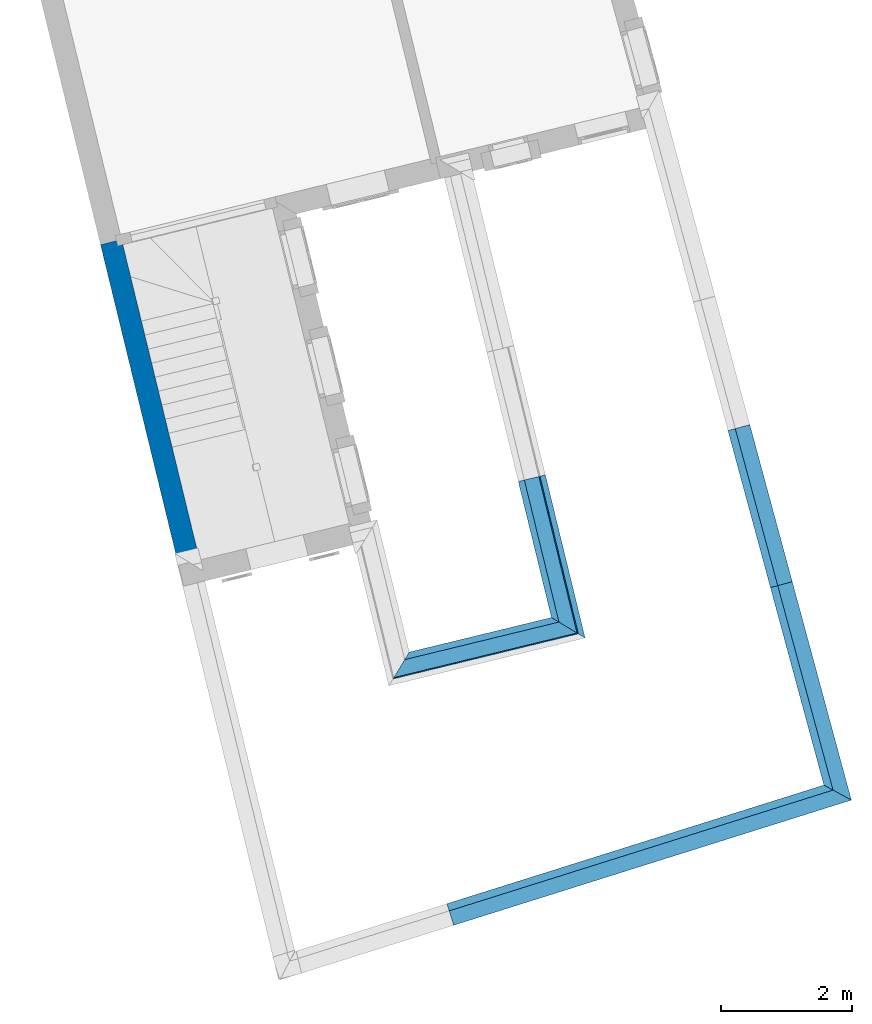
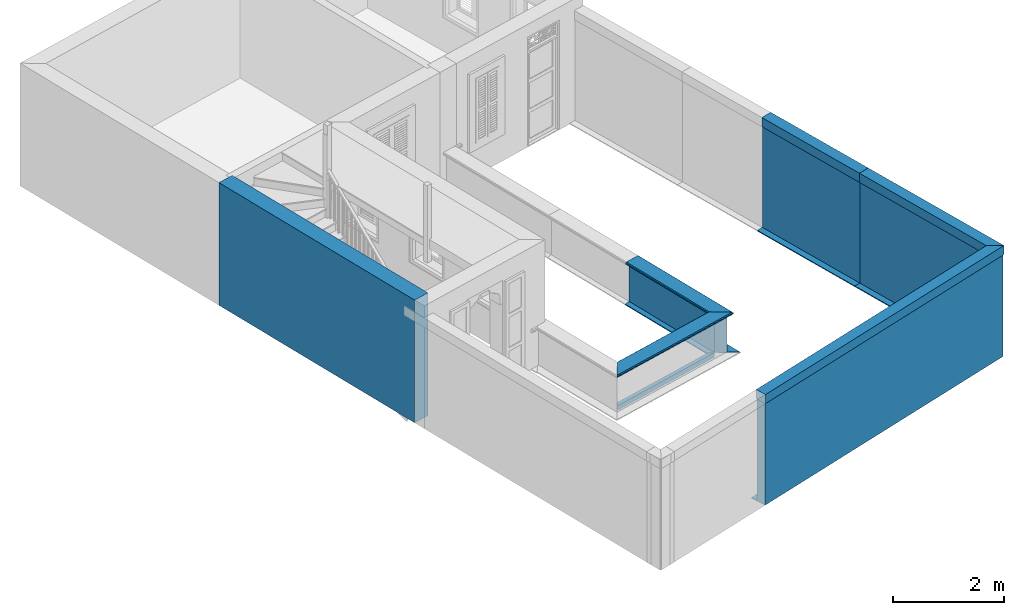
# One storey, part 2 of 9: 12 walls.
"""IFC4 building model written with IfcOpenShell, lengths in metres."""

from ifc_helpers import new_model, si_unit, frame, origin_with_axes, place, context, subcontext, project, spatial, polyline, outline, extrude, clip, halfspace, material, layer, layer_set, layer_usage, material_profile, profile_set, profile_usage, type_object, element, save


model = new_model("IFC4")

# Units and contexts
model_context = context("Model", 3, world=origin_with_axes())
body_context = subcontext(model_context, "Body", "Model", "MODEL_VIEW")
ifc_project = project(units=[si_unit("PLANEANGLEUNIT", "RADIAN"), si_unit("MASSUNIT", "GRAM", prefix="KILO"), si_unit("FORCEUNIT", "NEWTON", prefix="KILO"), si_unit("LENGTHUNIT", "METRE"), si_unit("AREAUNIT", "SQUARE_METRE"), si_unit("VOLUMEUNIT", "CUBIC_METRE")], contexts=[model_context, model_context])

# Site, building, storey
site_placement = place(None, origin_with_axes())
site = spatial("IfcSite", under=ifc_project, at=site_placement, Name="Site plot-4", CompositionType="ELEMENT")
building_placement = place(None, origin_with_axes())
building = spatial("IfcBuilding", under=site, at=building_placement, Name="Building plot-4", CompositionType="ELEMENT")
storey_placement = place(None, frame((0.0, 0.0, 2.7), z_axis=(0.0, 0.0, 1.0), x_axis=(1.0, 0.0, 0.0)))
storey = spatial("IfcBuildingStorey", under=building, at=storey_placement, Name="plot-4 1", CompositionType="ELEMENT", Elevation=2.7)

# Walls
ifc_material = material(Name="Masonry")
ifc_layer = layer(ifc_material, 0.33, ventilated=False)
ifc_layer_set = layer_set([ifc_layer], Name="party_0.08_0.25")
ifc_layer_usage = layer_usage(ifc_layer_set, "AXIS2", "POSITIVE", -0.25)
wall_type_1 = type_object("IfcWallType", Name="party_0.08_0.25", PredefinedType="SOLIDWALL", material=ifc_layer_set)
wall_1_placement = place(storey_placement, frame((18.5257119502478, 14.4311886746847, 0.0), z_axis=(0.0, 0.0, 1.0), x_axis=(0.236608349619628, -0.971605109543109, 0.0)))
element("IfcWall", 1, at=wall_1_placement, inside=storey, type_object=wall_type_1, material=ifc_layer_usage, Name="party", context=body_context, shape_type="SweptSolid", body=[
    extrude(outline(polyline([(4.04257239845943e-17, 0.0799999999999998), (2.17452179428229e-15, -0.25), (5.10976284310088, -0.249999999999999), (5.10976284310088, 0.0799999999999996), (4.04257239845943e-17, 0.0799999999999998)])), origin_with_axes(), (0.0, 0.0, 1.0), 2.7),
])
ifc_material_profile_1 = material_profile(None, outline(polyline([(0.25, 0.0), (0.25, 2.245), (0.05, 2.245), (0.05, 0.02), (-0.08, 0.02), (-0.08, 0.0), (0.25, 0.0)])))
ifc_profile_set_1 = profile_set([ifc_material_profile_1])
ifc_profile_usage_1 = profile_usage(ifc_profile_set_1)
wall_type_2 = type_object("IfcWallType", Name="parapet street_0", PredefinedType="PARAPET", material=ifc_profile_set_1)
wall_2_placement = place(storey_placement, frame((30.3656384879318, 6.37748351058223, 0.0), z_axis=(-0.953879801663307, -0.300188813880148, 0.0), x_axis=(0.300188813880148, -0.953879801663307, 0.0)))
element("IfcWall", 2, at=wall_2_placement, inside=storey, type_object=wall_type_2, material=ifc_profile_usage_1, Name="parapet street_0", context=body_context, shape_type="Clipping", body=[
    clip(clip(extrude(outline(polyline([(0.25, 0.0), (0.25, 2.245), (0.05, 2.245), (0.05, 0.02), (-0.08, 0.02), (-0.08, 0.0), (0.25, 0.0)])), origin_with_axes(), (0.0, 0.0, 1.0), 8.10361476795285), halfspace(frame((0.0, 0.0, 7.10361476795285), z_axis=(7.4882842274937e-15, 0.0, -1.0), x_axis=(0.0, 1.0, 0.0)), True)), halfspace(frame((0.0, 0.0, 1.0), z_axis=(-0.692587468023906, 0.0, -0.721333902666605), x_axis=(0.0, 1.0, 0.0)), False)),
])
ifc_profile_usage_2 = profile_usage(ifc_profile_set_1)
wall_3_placement = place(storey_placement, frame((28.315672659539, 10.1284623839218, 0.0), z_axis=(0.261170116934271, -0.965292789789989, 0.0), x_axis=(0.965292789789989, 0.261170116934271, 0.0)))
element("IfcWall", 3, at=wall_3_placement, inside=storey, type_object=wall_type_2, material=ifc_profile_usage_2, Name="parapet street_0", context=body_context, shape_type="Clipping", body=[
    clip(clip(extrude(outline(polyline([(0.25, 0.0), (0.25, 2.245), (0.05, 2.245), (0.05, 0.02), (-0.08, 0.02), (-0.08, 0.0), (0.25, 0.0)])), origin_with_axes(), (0.0, 0.0, 1.0), 5.19682787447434), halfspace(frame((0.0, 0.0, 4.19682787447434), z_axis=(0.692587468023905, 0.0, -0.721333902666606), x_axis=(0.0, 1.0, 0.0)), True)), halfspace(frame((0.0, 0.0, 1.0), z_axis=(-6.12323399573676e-17, 0.0, -1.0), x_axis=(0.0, 1.0, 0.0)), False)),
])
ifc_profile_usage_3 = profile_usage(ifc_profile_set_1)
wall_4_placement = place(storey_placement, frame((27.6679326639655, 12.5225293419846, 0.0), z_axis=(0.261170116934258, -0.965292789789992, 0.0), x_axis=(0.965292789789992, 0.261170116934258, 0.0)))
element("IfcWall", 4, at=wall_4_placement, inside=storey, type_object=wall_type_2, material=ifc_profile_usage_3, Name="parapet street_0", context=body_context, shape_type="Clipping", body=[
    clip(clip(extrude(outline(polyline([(0.25, 0.0), (0.25, 2.245), (0.05, 2.245), (0.05, 0.02), (-0.08, 0.02), (-0.08, 0.0), (0.25, 0.0)])), origin_with_axes(), (0.0, 0.0, 1.0), 4.48014590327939), halfspace(frame((0.0, 0.0, 3.48014590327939), z_axis=(-1.29398194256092e-14, 0.0, -1.0), x_axis=(0.0, 1.0, 0.0)), True)), halfspace(frame((0.0, 0.0, 1.0), z_axis=(1.60812264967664e-16, 0.0, -1.0), x_axis=(0.0, 1.0, 0.0)), False)),
])
ifc_material_profile_2 = material_profile(None, outline(polyline([(0.265, 2.245), (0.265, 2.445), (0.035, 2.445), (0.035, 2.245), (0.265, 2.245)])))
ifc_profile_set_2 = profile_set([ifc_material_profile_2])
ifc_profile_usage_4 = profile_usage(ifc_profile_set_2)
wall_type_3 = type_object("IfcWallType", Name="parapet street_1", PredefinedType="PARAPET", material=ifc_profile_set_2)
wall_5_placement = place(storey_placement, frame((30.3656384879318, 6.37748351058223, 0.0), z_axis=(-0.953879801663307, -0.300188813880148, 0.0), x_axis=(0.300188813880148, -0.953879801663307, 0.0)))
element("IfcWall", 5, at=wall_5_placement, inside=storey, type_object=wall_type_3, material=ifc_profile_usage_4, Name="parapet street_1", context=body_context, shape_type="Clipping", body=[
    clip(clip(extrude(outline(polyline([(0.265, 2.245), (0.265, 2.445), (0.035, 2.445), (0.035, 2.245), (0.265, 2.245)])), origin_with_axes(), (0.0, 0.0, 1.0), 8.10361476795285), halfspace(frame((0.0, 0.0, 7.10361476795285), z_axis=(7.4882842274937e-15, 0.0, -1.0), x_axis=(0.0, 1.0, 0.0)), True)), halfspace(frame((0.0, 0.0, 1.0), z_axis=(-0.692587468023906, 0.0, -0.721333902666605), x_axis=(0.0, 1.0, 0.0)), False)),
])
ifc_profile_usage_5 = profile_usage(ifc_profile_set_2)
wall_6_placement = place(storey_placement, frame((28.315672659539, 10.1284623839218, 0.0), z_axis=(0.261170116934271, -0.965292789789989, 0.0), x_axis=(0.965292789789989, 0.261170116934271, 0.0)))
element("IfcWall", 6, at=wall_6_placement, inside=storey, type_object=wall_type_3, material=ifc_profile_usage_5, Name="parapet street_1", context=body_context, shape_type="Clipping", body=[
    clip(clip(extrude(outline(polyline([(0.265, 2.245), (0.265, 2.445), (0.035, 2.445), (0.035, 2.245), (0.265, 2.245)])), origin_with_axes(), (0.0, 0.0, 1.0), 5.19682787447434), halfspace(frame((0.0, 0.0, 4.19682787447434), z_axis=(0.692587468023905, 0.0, -0.721333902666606), x_axis=(0.0, 1.0, 0.0)), True)), halfspace(frame((0.0, 0.0, 1.0), z_axis=(-6.12323399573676e-17, 0.0, -1.0), x_axis=(0.0, 1.0, 0.0)), False)),
])
ifc_profile_usage_6 = profile_usage(ifc_profile_set_2)
wall_7_placement = place(storey_placement, frame((27.6679326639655, 12.5225293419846, 0.0), z_axis=(0.261170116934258, -0.965292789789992, 0.0), x_axis=(0.965292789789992, 0.261170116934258, 0.0)))
element("IfcWall", 7, at=wall_7_placement, inside=storey, type_object=wall_type_3, material=ifc_profile_usage_6, Name="parapet street_1", context=body_context, shape_type="Clipping", body=[
    clip(clip(extrude(outline(polyline([(0.265, 2.245), (0.265, 2.445), (0.035, 2.445), (0.035, 2.245), (0.265, 2.245)])), origin_with_axes(), (0.0, 0.0, 1.0), 4.48014590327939), halfspace(frame((0.0, 0.0, 3.48014590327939), z_axis=(-1.29398194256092e-14, 0.0, -1.0), x_axis=(0.0, 1.0, 0.0)), True)), halfspace(frame((0.0, 0.0, 1.0), z_axis=(1.60812264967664e-16, 0.0, -1.0), x_axis=(0.0, 1.0, 0.0)), False)),
])
ifc_material_profile_3 = material_profile(None, outline(polyline([(0.25, 0.0), (0.25, 0.795), (0.09, 0.795), (0.09, 0.02), (-0.08, 0.02), (-0.08, 0.0), (0.25, 0.0)])))
ifc_profile_set_3 = profile_set([ifc_material_profile_3])
ifc_profile_usage_7 = profile_usage(ifc_profile_set_3)
wall_type_4 = type_object("IfcWallType", Name="parapet internal_0", PredefinedType="PARAPET", material=ifc_profile_set_3)
wall_8_placement = place(storey_placement, frame((25.8130552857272, 7.46089859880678, 0.0), z_axis=(-0.23660834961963, 0.971605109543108, 0.0), x_axis=(-0.971605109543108, -0.23660834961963, 0.0)))
element("IfcWall", 8, at=wall_8_placement, inside=storey, type_object=wall_type_4, material=ifc_profile_usage_7, Name="parapet internal_0", context=body_context, shape_type="Clipping", body=[
    clip(clip(extrude(outline(polyline([(0.25, 0.0), (0.25, 0.795), (0.09, 0.795), (0.09, 0.02), (-0.08, 0.02), (-0.08, 0.0), (0.25, 0.0)])), origin_with_axes(), (0.0, 0.0, 1.0), 4.4793483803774), halfspace(frame((0.0, 0.0, 3.4793483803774), z_axis=(1.6814157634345e-14, 0.0, -1.0), x_axis=(0.0, 1.0, 0.0)), True)), halfspace(frame((0.0, 0.0, 1.0), z_axis=(0.707106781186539, 0.0, -0.707106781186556), x_axis=(0.0, 1.0, 0.0)), False)),
])
ifc_material_profile_4 = material_profile(None, outline(polyline([(0.265, 0.795), (0.268, 0.807), (0.274, 0.816), (0.283, 0.822), (0.295, 0.825), (0.295, 0.84), (0.305, 0.84), (0.317, 0.842), (0.326, 0.849), (0.333, 0.858), (0.335, 0.87), (0.333, 0.882), (0.326, 0.891), (0.317, 0.898), (0.305, 0.9), (0.035, 0.9), (0.023, 0.898), (0.014, 0.891), (0.007, 0.882), (0.005, 0.87), (0.007, 0.858), (0.014, 0.849), (0.023, 0.842), (0.035, 0.84), (0.045, 0.84), (0.045, 0.825), (0.057, 0.822), (0.066, 0.816), (0.072, 0.807), (0.075, 0.795), (0.265, 0.795)])))
ifc_profile_set_4 = profile_set([ifc_material_profile_4])
ifc_profile_usage_8 = profile_usage(ifc_profile_set_4)
wall_type_5 = type_object("IfcWallType", Name="parapet internal_1", PredefinedType="PARAPET", material=ifc_profile_set_4)
wall_9_placement = place(storey_placement, frame((25.8130552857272, 7.46089859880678, 0.0), z_axis=(-0.23660834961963, 0.971605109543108, 0.0), x_axis=(-0.971605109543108, -0.23660834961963, 0.0)))
element("IfcWall", 9, at=wall_9_placement, inside=storey, type_object=wall_type_5, material=ifc_profile_usage_8, Name="parapet internal_1", context=body_context, shape_type="Clipping", body=[
    clip(clip(extrude(outline(polyline([(0.265, 0.795), (0.268, 0.807), (0.274, 0.816), (0.283, 0.822), (0.295, 0.825), (0.295, 0.84), (0.305, 0.84), (0.317, 0.842), (0.326, 0.849), (0.333, 0.858), (0.335, 0.87), (0.333, 0.882), (0.326, 0.891), (0.317, 0.898), (0.305, 0.9), (0.035, 0.9), (0.023, 0.898), (0.014, 0.891), (0.007, 0.882), (0.005, 0.87), (0.007, 0.858), (0.014, 0.849), (0.023, 0.842), (0.035, 0.84), (0.045, 0.84), (0.045, 0.825), (0.057, 0.822), (0.066, 0.816), (0.072, 0.807), (0.075, 0.795), (0.265, 0.795)])), origin_with_axes(), (0.0, 0.0, 1.0), 4.4793483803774), halfspace(frame((0.0, 0.0, 3.4793483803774), z_axis=(1.6814157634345e-14, 0.0, -1.0), x_axis=(0.0, 1.0, 0.0)), True)), halfspace(frame((0.0, 0.0, 1.0), z_axis=(0.707106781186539, 0.0, -0.707106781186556), x_axis=(0.0, 1.0, 0.0)), False)),
])
ifc_profile_usage_9 = profile_usage(ifc_profile_set_4)
wall_10_placement = place(storey_placement, frame((21.7666155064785, 7.50472150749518, 0.0), z_axis=(0.971605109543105, 0.236608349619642, 0.0), x_axis=(-0.236608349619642, 0.971605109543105, 0.0)))
element("IfcWall", 10, at=wall_10_placement, inside=storey, type_object=wall_type_5, material=ifc_profile_usage_9, Name="parapet internal_1", context=body_context, shape_type="Clipping", body=[
    clip(clip(extrude(outline(polyline([(0.265, 0.795), (0.268, 0.807), (0.274, 0.816), (0.283, 0.822), (0.295, 0.825), (0.295, 0.84), (0.305, 0.84), (0.317, 0.842), (0.326, 0.849), (0.333, 0.858), (0.335, 0.87), (0.333, 0.882), (0.326, 0.891), (0.317, 0.898), (0.305, 0.9), (0.035, 0.9), (0.023, 0.898), (0.014, 0.891), (0.007, 0.882), (0.005, 0.87), (0.007, 0.858), (0.014, 0.849), (0.023, 0.842), (0.035, 0.84), (0.045, 0.84), (0.045, 0.825), (0.057, 0.822), (0.066, 0.816), (0.072, 0.807), (0.075, 0.795), (0.265, 0.795)])), origin_with_axes(), (0.0, 0.0, 1.0), 4.92117269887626), halfspace(frame((0.0, 0.0, 3.92117269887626), z_axis=(-0.707106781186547, 0.0, -0.707106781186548), x_axis=(0.0, 1.0, 0.0)), True)), halfspace(frame((0.0, 0.0, 1.0), z_axis=(0.70710678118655, 0.0, -0.707106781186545), x_axis=(0.0, 1.0, 0.0)), False)),
])
ifc_material_profile_5 = material_profile(None, outline(polyline([(0.25, -0.1), (0.265, -0.1), (0.265, -0.085), (0.278, -0.084), (0.289, -0.081), (0.301, -0.074), (0.309, -0.065), (0.315, -0.055), (0.324, -0.044), (0.334, -0.038), (0.345, -0.035), (0.345, -0.015), (0.25, 0.0), (0.25, -0.1)])))
ifc_profile_set_5 = profile_set([ifc_material_profile_5])
ifc_profile_usage_10 = profile_usage(ifc_profile_set_5)
wall_type_6 = type_object("IfcWallType", Name="parapet internal_2", PredefinedType="PARAPET", material=ifc_profile_set_5)
wall_11_placement = place(storey_placement, frame((25.8130552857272, 7.46089859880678, 0.0), z_axis=(-0.23660834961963, 0.971605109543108, 0.0), x_axis=(-0.971605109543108, -0.23660834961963, 0.0)))
element("IfcWall", 11, at=wall_11_placement, inside=storey, type_object=wall_type_6, material=ifc_profile_usage_10, Name="parapet internal_2", context=body_context, shape_type="Clipping", body=[
    clip(clip(extrude(outline(polyline([(0.25, -0.1), (0.265, -0.1), (0.265, -0.085), (0.278, -0.084), (0.289, -0.081), (0.301, -0.074), (0.309, -0.065), (0.315, -0.055), (0.324, -0.044), (0.334, -0.038), (0.345, -0.035), (0.345, -0.015), (0.25, 0.0), (0.25, -0.1)])), origin_with_axes(), (0.0, 0.0, 1.0), 4.4793483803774), halfspace(frame((0.0, 0.0, 3.4793483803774), z_axis=(1.6814157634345e-14, 0.0, -1.0), x_axis=(0.0, 1.0, 0.0)), True)), halfspace(frame((0.0, 0.0, 1.0), z_axis=(0.707106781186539, 0.0, -0.707106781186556), x_axis=(0.0, 1.0, 0.0)), False)),
])
ifc_profile_usage_11 = profile_usage(ifc_profile_set_5)
wall_12_placement = place(storey_placement, frame((21.7666155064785, 7.50472150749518, 0.0), z_axis=(0.971605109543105, 0.236608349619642, 0.0), x_axis=(-0.236608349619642, 0.971605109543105, 0.0)))
element("IfcWall", 12, at=wall_12_placement, inside=storey, type_object=wall_type_6, material=ifc_profile_usage_11, Name="parapet internal_2", context=body_context, shape_type="Clipping", body=[
    clip(clip(extrude(outline(polyline([(0.25, -0.1), (0.265, -0.1), (0.265, -0.085), (0.278, -0.084), (0.289, -0.081), (0.301, -0.074), (0.309, -0.065), (0.315, -0.055), (0.324, -0.044), (0.334, -0.038), (0.345, -0.035), (0.345, -0.015), (0.25, 0.0), (0.25, -0.1)])), origin_with_axes(), (0.0, 0.0, 1.0), 4.92117269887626), halfspace(frame((0.0, 0.0, 3.92117269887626), z_axis=(-0.707106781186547, 0.0, -0.707106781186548), x_axis=(0.0, 1.0, 0.0)), True)), halfspace(frame((0.0, 0.0, 1.0), z_axis=(0.70710678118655, 0.0, -0.707106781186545), x_axis=(0.0, 1.0, 0.0)), False)),
])

save(model, "model.ifc")
